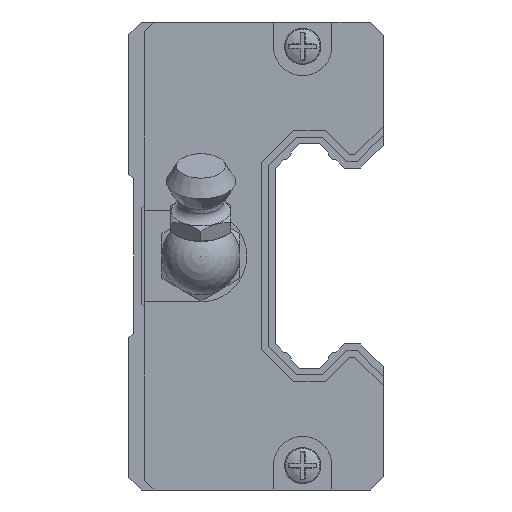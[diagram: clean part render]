
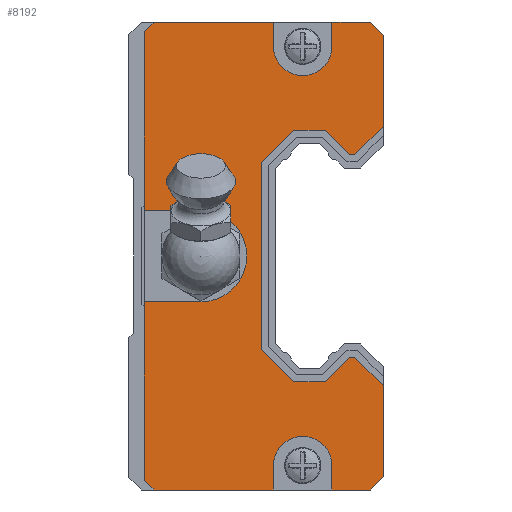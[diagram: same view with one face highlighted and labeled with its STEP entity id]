
A CAD part, left-side view. The second image highlights one B-rep face of the part: STEP entity #8192.
In plain terms, the highlighted planar face has unit normal (-1, 0, 0) as drawn and (1, 0, 0) by its records, which use the part's own axes.
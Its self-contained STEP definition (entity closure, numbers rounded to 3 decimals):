
#7757 = EDGE_CURVE('',#7758,#7760,#7762,.T.);
#7758 = VERTEX_POINT('',#7759);
#7759 = CARTESIAN_POINT('',(3.,18.16,-24.));
#7760 = VERTEX_POINT('',#7761);
#7761 = CARTESIAN_POINT('',(3.,18.16,-21.5));
#7762 = LINE('',#7763,#7764);
#7763 = CARTESIAN_POINT('',(3.,18.16,0.));
#7764 = VECTOR('',#7765,1.);
#7765 = DIRECTION('',(0.,0.,1.));
#7808 = VERTEX_POINT('',#7809);
#7809 = CARTESIAN_POINT('',(3.,12.16,-21.5));
#7815 = EDGE_CURVE('',#7760,#7808,#7816,.T.);
#7816 = CIRCLE('',#7817,3.);
#7817 = AXIS2_PLACEMENT_3D('',#7818,#7819,#7820);
#7818 = CARTESIAN_POINT('',(3.,15.16,-21.5));
#7819 = DIRECTION('',(1.,0.,0.));
#7820 = DIRECTION('',(0.,0.,-1.));
#8144 = VERTEX_POINT('',#8145);
#8145 = CARTESIAN_POINT('',(3.,6.9,13.327));
#8151 = EDGE_CURVE('',#8152,#8144,#8154,.T.);
#8152 = VERTEX_POINT('',#8153);
#8153 = CARTESIAN_POINT('',(3.,6.9,22.66));
#8154 = LINE('',#8155,#8156);
#8155 = CARTESIAN_POINT('',(3.,6.9,22.66));
#8156 = VECTOR('',#8157,1.);
#8157 = DIRECTION('',(0.,0.,-1.));
#8192 = ADVANCED_FACE('',(#8193),#8428,.T.);
#8193 = FACE_BOUND('',#8194,.T.);
#8194 = EDGE_LOOP('',(#8195,#8203,#8211,#8219,#8227,#8235,#8243,#8251,
    #8259,#8267,#8275,#8283,#8291,#8299,#8307,#8313,#8314,#8315,#8323,
    #8331,#8339,#8347,#8356,#8364,#8372,#8380,#8388,#8396,#8405,#8413,
    #8421,#8427));
#8195 = ORIENTED_EDGE('',*,*,#8196,.F.);
#8196 = EDGE_CURVE('',#8197,#8144,#8199,.T.);
#8197 = VERTEX_POINT('',#8198);
#8198 = CARTESIAN_POINT('',(3.,9.825,10.402));
#8199 = LINE('',#8200,#8201);
#8200 = CARTESIAN_POINT('',(3.,9.825,10.402));
#8201 = VECTOR('',#8202,1.);
#8202 = DIRECTION('',(0.,-0.707,0.707));
#8203 = ORIENTED_EDGE('',*,*,#8204,.F.);
#8204 = EDGE_CURVE('',#8205,#8197,#8207,.T.);
#8205 = VERTEX_POINT('',#8206);
#8206 = CARTESIAN_POINT('',(3.,10.348,10.402));
#8207 = LINE('',#8208,#8209);
#8208 = CARTESIAN_POINT('',(3.,10.348,10.402));
#8209 = VECTOR('',#8210,1.);
#8210 = DIRECTION('',(0.,-1.,0.));
#8211 = ORIENTED_EDGE('',*,*,#8212,.F.);
#8212 = EDGE_CURVE('',#8213,#8205,#8215,.T.);
#8213 = VERTEX_POINT('',#8214);
#8214 = CARTESIAN_POINT('',(3.,12.826,12.88));
#8215 = LINE('',#8216,#8217);
#8216 = CARTESIAN_POINT('',(3.,12.826,12.88));
#8217 = VECTOR('',#8218,1.);
#8218 = DIRECTION('',(0.,-0.707,-0.707));
#8219 = ORIENTED_EDGE('',*,*,#8220,.F.);
#8220 = EDGE_CURVE('',#8221,#8213,#8223,.T.);
#8221 = VERTEX_POINT('',#8222);
#8222 = CARTESIAN_POINT('',(3.,16.094,12.88));
#8223 = LINE('',#8224,#8225);
#8224 = CARTESIAN_POINT('',(3.,16.094,12.88));
#8225 = VECTOR('',#8226,1.);
#8226 = DIRECTION('',(0.,-1.,0.));
#8227 = ORIENTED_EDGE('',*,*,#8228,.F.);
#8228 = EDGE_CURVE('',#8229,#8221,#8231,.T.);
#8229 = VERTEX_POINT('',#8230);
#8230 = CARTESIAN_POINT('',(3.,19.38,9.594));
#8231 = LINE('',#8232,#8233);
#8232 = CARTESIAN_POINT('',(3.,19.38,9.594));
#8233 = VECTOR('',#8234,1.);
#8234 = DIRECTION('',(0.,-0.707,0.707));
#8235 = ORIENTED_EDGE('',*,*,#8236,.F.);
#8236 = EDGE_CURVE('',#8237,#8229,#8239,.T.);
#8237 = VERTEX_POINT('',#8238);
#8238 = CARTESIAN_POINT('',(3.,19.38,-9.594));
#8239 = LINE('',#8240,#8241);
#8240 = CARTESIAN_POINT('',(3.,19.38,-9.594));
#8241 = VECTOR('',#8242,1.);
#8242 = DIRECTION('',(0.,0.,1.));
#8243 = ORIENTED_EDGE('',*,*,#8244,.F.);
#8244 = EDGE_CURVE('',#8245,#8237,#8247,.T.);
#8245 = VERTEX_POINT('',#8246);
#8246 = CARTESIAN_POINT('',(3.,16.094,-12.88));
#8247 = LINE('',#8248,#8249);
#8248 = CARTESIAN_POINT('',(3.,16.094,-12.88));
#8249 = VECTOR('',#8250,1.);
#8250 = DIRECTION('',(0.,0.707,0.707));
#8251 = ORIENTED_EDGE('',*,*,#8252,.F.);
#8252 = EDGE_CURVE('',#8253,#8245,#8255,.T.);
#8253 = VERTEX_POINT('',#8254);
#8254 = CARTESIAN_POINT('',(3.,12.826,-12.88));
#8255 = LINE('',#8256,#8257);
#8256 = CARTESIAN_POINT('',(3.,12.826,-12.88));
#8257 = VECTOR('',#8258,1.);
#8258 = DIRECTION('',(0.,1.,0.));
#8259 = ORIENTED_EDGE('',*,*,#8260,.F.);
#8260 = EDGE_CURVE('',#8261,#8253,#8263,.T.);
#8261 = VERTEX_POINT('',#8262);
#8262 = CARTESIAN_POINT('',(3.,10.348,-10.402));
#8263 = LINE('',#8264,#8265);
#8264 = CARTESIAN_POINT('',(3.,10.348,-10.402));
#8265 = VECTOR('',#8266,1.);
#8266 = DIRECTION('',(0.,0.707,-0.707));
#8267 = ORIENTED_EDGE('',*,*,#8268,.F.);
#8268 = EDGE_CURVE('',#8269,#8261,#8271,.T.);
#8269 = VERTEX_POINT('',#8270);
#8270 = CARTESIAN_POINT('',(3.,9.825,-10.402));
#8271 = LINE('',#8272,#8273);
#8272 = CARTESIAN_POINT('',(3.,9.825,-10.402));
#8273 = VECTOR('',#8274,1.);
#8274 = DIRECTION('',(0.,1.,0.));
#8275 = ORIENTED_EDGE('',*,*,#8276,.F.);
#8276 = EDGE_CURVE('',#8277,#8269,#8279,.T.);
#8277 = VERTEX_POINT('',#8278);
#8278 = CARTESIAN_POINT('',(3.,6.9,-13.327));
#8279 = LINE('',#8280,#8281);
#8280 = CARTESIAN_POINT('',(3.,6.9,-13.327));
#8281 = VECTOR('',#8282,1.);
#8282 = DIRECTION('',(0.,0.707,0.707));
#8283 = ORIENTED_EDGE('',*,*,#8284,.T.);
#8284 = EDGE_CURVE('',#8277,#8285,#8287,.T.);
#8285 = VERTEX_POINT('',#8286);
#8286 = CARTESIAN_POINT('',(3.,6.9,-22.66));
#8287 = LINE('',#8288,#8289);
#8288 = CARTESIAN_POINT('',(3.,6.9,22.66));
#8289 = VECTOR('',#8290,1.);
#8290 = DIRECTION('',(0.,0.,-1.));
#8291 = ORIENTED_EDGE('',*,*,#8292,.T.);
#8292 = EDGE_CURVE('',#8285,#8293,#8295,.T.);
#8293 = VERTEX_POINT('',#8294);
#8294 = CARTESIAN_POINT('',(3.,8.24,-24.));
#8295 = LINE('',#8296,#8297);
#8296 = CARTESIAN_POINT('',(3.,6.9,-22.66));
#8297 = VECTOR('',#8298,1.);
#8298 = DIRECTION('',(0.,0.707,-0.707));
#8299 = ORIENTED_EDGE('',*,*,#8300,.T.);
#8300 = EDGE_CURVE('',#8293,#8301,#8303,.T.);
#8301 = VERTEX_POINT('',#8302);
#8302 = CARTESIAN_POINT('',(3.,12.16,-24.));
#8303 = LINE('',#8304,#8305);
#8304 = CARTESIAN_POINT('',(3.,8.24,-24.));
#8305 = VECTOR('',#8306,1.);
#8306 = DIRECTION('',(0.,1.,0.));
#8307 = ORIENTED_EDGE('',*,*,#8308,.F.);
#8308 = EDGE_CURVE('',#7808,#8301,#8309,.T.);
#8309 = LINE('',#8310,#8311);
#8310 = CARTESIAN_POINT('',(3.,12.16,-21.5));
#8311 = VECTOR('',#8312,1.);
#8312 = DIRECTION('',(0.,0.,-1.));
#8313 = ORIENTED_EDGE('',*,*,#7815,.F.);
#8314 = ORIENTED_EDGE('',*,*,#7757,.F.);
#8315 = ORIENTED_EDGE('',*,*,#8316,.T.);
#8316 = EDGE_CURVE('',#7758,#8317,#8319,.T.);
#8317 = VERTEX_POINT('',#8318);
#8318 = CARTESIAN_POINT('',(3.,30.4,-24.));
#8319 = LINE('',#8320,#8321);
#8320 = CARTESIAN_POINT('',(3.,8.24,-24.));
#8321 = VECTOR('',#8322,1.);
#8322 = DIRECTION('',(0.,1.,0.));
#8323 = ORIENTED_EDGE('',*,*,#8324,.T.);
#8324 = EDGE_CURVE('',#8317,#8325,#8327,.T.);
#8325 = VERTEX_POINT('',#8326);
#8326 = CARTESIAN_POINT('',(3.,31.4,-23.));
#8327 = LINE('',#8328,#8329);
#8328 = CARTESIAN_POINT('',(3.,30.4,-24.));
#8329 = VECTOR('',#8330,1.);
#8330 = DIRECTION('',(0.,0.707,0.707));
#8331 = ORIENTED_EDGE('',*,*,#8332,.T.);
#8332 = EDGE_CURVE('',#8325,#8333,#8335,.T.);
#8333 = VERTEX_POINT('',#8334);
#8334 = CARTESIAN_POINT('',(3.,31.4,-4.7));
#8335 = LINE('',#8336,#8337);
#8336 = CARTESIAN_POINT('',(3.,31.4,-23.));
#8337 = VECTOR('',#8338,1.);
#8338 = DIRECTION('',(0.,0.,1.));
#8339 = ORIENTED_EDGE('',*,*,#8340,.F.);
#8340 = EDGE_CURVE('',#8341,#8333,#8343,.T.);
#8341 = VERTEX_POINT('',#8342);
#8342 = CARTESIAN_POINT('',(3.,25.6,-4.7));
#8343 = LINE('',#8344,#8345);
#8344 = CARTESIAN_POINT('',(3.,25.6,-4.7));
#8345 = VECTOR('',#8346,1.);
#8346 = DIRECTION('',(0.,1.,0.));
#8347 = ORIENTED_EDGE('',*,*,#8348,.F.);
#8348 = EDGE_CURVE('',#8349,#8341,#8351,.T.);
#8349 = VERTEX_POINT('',#8350);
#8350 = CARTESIAN_POINT('',(3.,25.6,4.7));
#8351 = CIRCLE('',#8352,4.7);
#8352 = AXIS2_PLACEMENT_3D('',#8353,#8354,#8355);
#8353 = CARTESIAN_POINT('',(3.,25.6,0.));
#8354 = DIRECTION('',(1.,0.,0.));
#8355 = DIRECTION('',(0.,0.,-1.));
#8356 = ORIENTED_EDGE('',*,*,#8357,.F.);
#8357 = EDGE_CURVE('',#8358,#8349,#8360,.T.);
#8358 = VERTEX_POINT('',#8359);
#8359 = CARTESIAN_POINT('',(3.,31.4,4.7));
#8360 = LINE('',#8361,#8362);
#8361 = CARTESIAN_POINT('',(3.,31.4,4.7));
#8362 = VECTOR('',#8363,1.);
#8363 = DIRECTION('',(0.,-1.,0.));
#8364 = ORIENTED_EDGE('',*,*,#8365,.T.);
#8365 = EDGE_CURVE('',#8358,#8366,#8368,.T.);
#8366 = VERTEX_POINT('',#8367);
#8367 = CARTESIAN_POINT('',(3.,31.4,23.));
#8368 = LINE('',#8369,#8370);
#8369 = CARTESIAN_POINT('',(3.,31.4,-23.));
#8370 = VECTOR('',#8371,1.);
#8371 = DIRECTION('',(0.,0.,1.));
#8372 = ORIENTED_EDGE('',*,*,#8373,.T.);
#8373 = EDGE_CURVE('',#8366,#8374,#8376,.T.);
#8374 = VERTEX_POINT('',#8375);
#8375 = CARTESIAN_POINT('',(3.,30.4,24.));
#8376 = LINE('',#8377,#8378);
#8377 = CARTESIAN_POINT('',(3.,31.4,23.));
#8378 = VECTOR('',#8379,1.);
#8379 = DIRECTION('',(0.,-0.707,0.707));
#8380 = ORIENTED_EDGE('',*,*,#8381,.T.);
#8381 = EDGE_CURVE('',#8374,#8382,#8384,.T.);
#8382 = VERTEX_POINT('',#8383);
#8383 = CARTESIAN_POINT('',(3.,18.16,24.));
#8384 = LINE('',#8385,#8386);
#8385 = CARTESIAN_POINT('',(3.,30.4,24.));
#8386 = VECTOR('',#8387,1.);
#8387 = DIRECTION('',(0.,-1.,0.));
#8388 = ORIENTED_EDGE('',*,*,#8389,.F.);
#8389 = EDGE_CURVE('',#8390,#8382,#8392,.T.);
#8390 = VERTEX_POINT('',#8391);
#8391 = CARTESIAN_POINT('',(3.,18.16,21.5));
#8392 = LINE('',#8393,#8394);
#8393 = CARTESIAN_POINT('',(3.,18.16,21.5));
#8394 = VECTOR('',#8395,1.);
#8395 = DIRECTION('',(0.,0.,1.));
#8396 = ORIENTED_EDGE('',*,*,#8397,.F.);
#8397 = EDGE_CURVE('',#8398,#8390,#8400,.T.);
#8398 = VERTEX_POINT('',#8399);
#8399 = CARTESIAN_POINT('',(3.,12.16,21.5));
#8400 = CIRCLE('',#8401,3.);
#8401 = AXIS2_PLACEMENT_3D('',#8402,#8403,#8404);
#8402 = CARTESIAN_POINT('',(3.,15.16,21.5));
#8403 = DIRECTION('',(1.,0.,0.));
#8404 = DIRECTION('',(0.,0.,-1.));
#8405 = ORIENTED_EDGE('',*,*,#8406,.F.);
#8406 = EDGE_CURVE('',#8407,#8398,#8409,.T.);
#8407 = VERTEX_POINT('',#8408);
#8408 = CARTESIAN_POINT('',(3.,12.16,24.));
#8409 = LINE('',#8410,#8411);
#8410 = CARTESIAN_POINT('',(3.,12.16,24.));
#8411 = VECTOR('',#8412,1.);
#8412 = DIRECTION('',(0.,0.,-1.));
#8413 = ORIENTED_EDGE('',*,*,#8414,.T.);
#8414 = EDGE_CURVE('',#8407,#8415,#8417,.T.);
#8415 = VERTEX_POINT('',#8416);
#8416 = CARTESIAN_POINT('',(3.,8.24,24.));
#8417 = LINE('',#8418,#8419);
#8418 = CARTESIAN_POINT('',(3.,30.4,24.));
#8419 = VECTOR('',#8420,1.);
#8420 = DIRECTION('',(0.,-1.,0.));
#8421 = ORIENTED_EDGE('',*,*,#8422,.T.);
#8422 = EDGE_CURVE('',#8415,#8152,#8423,.T.);
#8423 = LINE('',#8424,#8425);
#8424 = CARTESIAN_POINT('',(3.,8.24,24.));
#8425 = VECTOR('',#8426,1.);
#8426 = DIRECTION('',(0.,-0.707,-0.707));
#8427 = ORIENTED_EDGE('',*,*,#8151,.T.);
#8428 = PLANE('',#8429);
#8429 = AXIS2_PLACEMENT_3D('',#8430,#8431,#8432);
#8430 = CARTESIAN_POINT('',(3.,0.,0.));
#8431 = DIRECTION('',(1.,0.,0.));
#8432 = DIRECTION('',(0.,0.,1.));
